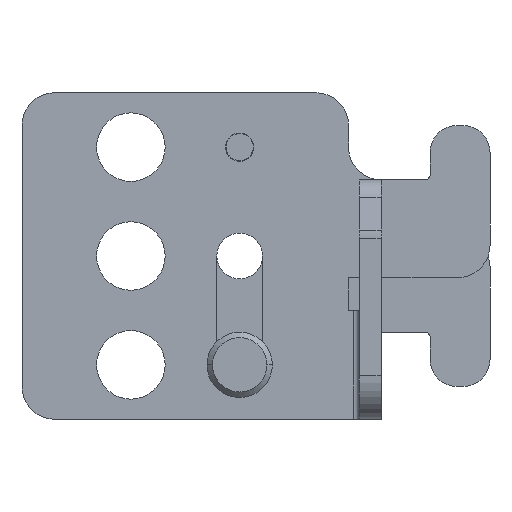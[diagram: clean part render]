
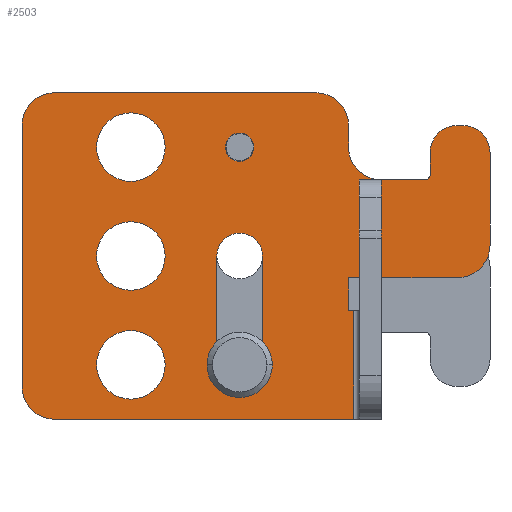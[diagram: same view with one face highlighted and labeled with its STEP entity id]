
A CAD part, left-side view. The second image highlights one B-rep face of the part: STEP entity #2503.
In plain terms, the highlighted planar face has unit normal (-1, 0, 0) as drawn and (1, 0, 0) by its records, which use the part's own axes.
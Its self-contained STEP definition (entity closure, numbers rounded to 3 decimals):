
#1666=CARTESIAN_POINT('',(2.,20.,0.));
#1667=DIRECTION('',(-1.,0.,0.));
#1668=DIRECTION('',(0.,0.,-1.));
#1669=AXIS2_PLACEMENT_3D('',#1666,#1667,#1668);
#1671=CARTESIAN_POINT('',(2.,20.,0.));
#1672=DIRECTION('',(-1.,0.,0.));
#1673=DIRECTION('',(0.,0.,1.));
#1674=AXIS2_PLACEMENT_3D('',#1671,#1672,#1673);
#1676=CARTESIAN_POINT('',(2.,20.,10.));
#1677=DIRECTION('',(-1.,0.,0.));
#1678=DIRECTION('',(0.,0.,-1.));
#1679=AXIS2_PLACEMENT_3D('',#1676,#1677,#1678);
#1681=CARTESIAN_POINT('',(2.,20.,10.));
#1682=DIRECTION('',(-1.,0.,0.));
#1683=DIRECTION('',(0.,0.,1.));
#1684=AXIS2_PLACEMENT_3D('',#1681,#1682,#1683);
#1686=CARTESIAN_POINT('',(2.,20.,-10.));
#1687=DIRECTION('',(-1.,0.,0.));
#1688=DIRECTION('',(0.,0.,-1.));
#1689=AXIS2_PLACEMENT_3D('',#1686,#1687,#1688);
#1691=CARTESIAN_POINT('',(2.,20.,-10.));
#1692=DIRECTION('',(-1.,0.,0.));
#1693=DIRECTION('',(0.,0.,1.));
#1694=AXIS2_PLACEMENT_3D('',#1691,#1692,#1693);
#1696=DIRECTION('',(0.,0.,-1.));
#1697=VECTOR('',#1696,10.);
#1698=CARTESIAN_POINT('',(2.,12.1,10.));
#1699=LINE('',#1698,#1697);
#1700=CARTESIAN_POINT('',(2.,10.,10.));
#1701=DIRECTION('',(-1.,0.,0.));
#1702=DIRECTION('',(0.,-1.,0.));
#1703=AXIS2_PLACEMENT_3D('',#1700,#1701,#1702);
#1705=DIRECTION('',(0.,0.,1.));
#1706=VECTOR('',#1705,10.);
#1707=CARTESIAN_POINT('',(2.,7.9,0.));
#1708=LINE('',#1707,#1706);
#1709=CARTESIAN_POINT('',(2.,10.,0.));
#1710=DIRECTION('',(-1.,0.,0.));
#1711=DIRECTION('',(0.,1.,0.));
#1712=AXIS2_PLACEMENT_3D('',#1709,#1710,#1711);
#1714=CARTESIAN_POINT('',(2.,10.,-10.));
#1715=DIRECTION('',(-1.,0.,0.));
#1716=DIRECTION('',(0.,0.,-1.));
#1717=AXIS2_PLACEMENT_3D('',#1714,#1715,#1716);
#1719=CARTESIAN_POINT('',(2.,10.,-10.));
#1720=DIRECTION('',(-1.,0.,0.));
#1721=DIRECTION('',(0.,0.,1.));
#1722=AXIS2_PLACEMENT_3D('',#1719,#1720,#1721);
#1724=CARTESIAN_POINT('',(2.,-10.,-9.5));
#1725=DIRECTION('',(1.,0.,0.));
#1726=DIRECTION('',(0.,0.,-1.));
#1727=AXIS2_PLACEMENT_3D('',#1724,#1725,#1726);
#1729=DIRECTION('',(0.,1.,0.));
#1730=VECTOR('',#1729,0.5);
#1731=CARTESIAN_POINT('',(2.,-10.5,-12.));
#1732=LINE('',#1731,#1730);
#1733=CARTESIAN_POINT('',(2.,-10.5,-9.5));
#1734=DIRECTION('',(1.,0.,0.));
#1735=DIRECTION('',(0.,-1.,0.));
#1736=AXIS2_PLACEMENT_3D('',#1733,#1734,#1735);
#1738=DIRECTION('',(0.,0.,-1.));
#1739=VECTOR('',#1738,8.5);
#1740=CARTESIAN_POINT('',(2.,-13.,-1.));
#1741=LINE('',#1740,#1739);
#1742=CARTESIAN_POINT('',(2.,-10.,-1.));
#1743=DIRECTION('',(1.,0.,0.));
#1744=DIRECTION('',(0.,0.,1.));
#1745=AXIS2_PLACEMENT_3D('',#1742,#1743,#1744);
#1747=DIRECTION('',(0.,-1.,0.));
#1748=VECTOR('',#1747,10.);
#1749=CARTESIAN_POINT('',(2.,0.,2.));
#1750=LINE('',#1749,#1748);
#1751=DIRECTION('',(0.,0.,-1.));
#1752=VECTOR('',#1751,3.);
#1753=CARTESIAN_POINT('',(2.,0.,5.));
#1754=LINE('',#1753,#1752);
#1755=DIRECTION('',(0.,0.,1.));
#1756=VECTOR('',#1755,10.);
#1757=CARTESIAN_POINT('',(2.,-0.5,5.));
#1758=LINE('',#1757,#1756);
#1759=DIRECTION('',(0.,1.,0.));
#1760=VECTOR('',#1759,27.5);
#1761=CARTESIAN_POINT('',(2.,-0.5,15.));
#1762=LINE('',#1761,#1760);
#1763=CARTESIAN_POINT('',(2.,27.,12.));
#1764=DIRECTION('',(1.,0.,0.));
#1765=DIRECTION('',(0.,1.,0.));
#1766=AXIS2_PLACEMENT_3D('',#1763,#1764,#1765);
#1768=DIRECTION('',(0.,0.,1.));
#1769=VECTOR('',#1768,24.);
#1770=CARTESIAN_POINT('',(2.,30.,-12.));
#1771=LINE('',#1770,#1769);
#1772=CARTESIAN_POINT('',(2.,27.,-12.));
#1773=DIRECTION('',(1.,0.,0.));
#1774=DIRECTION('',(0.,0.,-1.));
#1775=AXIS2_PLACEMENT_3D('',#1772,#1773,#1774);
#1777=DIRECTION('',(0.,1.,0.));
#1778=VECTOR('',#1777,24.);
#1779=CARTESIAN_POINT('',(2.,3.,-15.));
#1780=LINE('',#1779,#1778);
#1781=CARTESIAN_POINT('',(2.,3.,-12.));
#1782=DIRECTION('',(1.,0.,0.));
#1783=DIRECTION('',(0.,-1.,0.));
#1784=AXIS2_PLACEMENT_3D('',#1781,#1782,#1783);
#1786=DIRECTION('',(0.,0.,-1.));
#1787=VECTOR('',#1786,2.);
#1788=CARTESIAN_POINT('',(2.,0.,-10.));
#1789=LINE('',#1788,#1787);
#1790=DIRECTION('',(0.,1.,0.));
#1791=VECTOR('',#1790,4.);
#1792=CARTESIAN_POINT('',(2.,-7.,-7.));
#1793=LINE('',#1792,#1791);
#1794=DIRECTION('',(0.,0.,1.));
#1795=VECTOR('',#1794,2.);
#1796=CARTESIAN_POINT('',(2.,-7.5,-9.5));
#1797=LINE('',#1796,#1795);
#1851=CARTESIAN_POINT('',(2.,-7.,-7.5));
#1852=DIRECTION('',(-1.,0.,0.));
#1853=DIRECTION('',(0.,-1.,0.));
#1854=AXIS2_PLACEMENT_3D('',#1851,#1852,#1853);
#1869=CARTESIAN_POINT('',(2.,-3.,-10.));
#1870=DIRECTION('',(-1.,0.,0.));
#1871=DIRECTION('',(0.,0.,1.));
#1872=AXIS2_PLACEMENT_3D('',#1869,#1870,#1871);
#1936=DIRECTION('',(0.,1.,0.));
#1937=VECTOR('',#1936,0.5);
#1938=CARTESIAN_POINT('',(2.,-0.5,5.));
#1939=LINE('',#1938,#1937);
#2142=CARTESIAN_POINT('',(2.,20.,-3.15));
#2143=CARTESIAN_POINT('',(2.,20.,3.15));
#2144=VERTEX_POINT('',#2142);
#2145=VERTEX_POINT('',#2143);
#2146=CARTESIAN_POINT('',(2.,20.,6.85));
#2147=CARTESIAN_POINT('',(2.,20.,13.15));
#2148=VERTEX_POINT('',#2146);
#2149=VERTEX_POINT('',#2147);
#2150=CARTESIAN_POINT('',(2.,20.,-13.15));
#2151=CARTESIAN_POINT('',(2.,20.,-6.85));
#2152=VERTEX_POINT('',#2150);
#2153=VERTEX_POINT('',#2151);
#2155=CARTESIAN_POINT('',(2.,0.,2.));
#2157=VERTEX_POINT('',#2155);
#2166=CARTESIAN_POINT('',(2.,12.1,10.));
#2167=CARTESIAN_POINT('',(2.,12.1,0.));
#2168=VERTEX_POINT('',#2166);
#2169=VERTEX_POINT('',#2167);
#2170=CARTESIAN_POINT('',(2.,7.9,0.));
#2171=VERTEX_POINT('',#2170);
#2172=CARTESIAN_POINT('',(2.,7.9,10.));
#2173=VERTEX_POINT('',#2172);
#2178=CARTESIAN_POINT('',(2.,10.,-11.3));
#2179=CARTESIAN_POINT('',(2.,10.,-8.7));
#2180=VERTEX_POINT('',#2178);
#2181=VERTEX_POINT('',#2179);
#2184=CARTESIAN_POINT('',(2.,-10.,2.));
#2185=VERTEX_POINT('',#2184);
#2190=CARTESIAN_POINT('',(2.,30.,12.));
#2191=VERTEX_POINT('',#2190);
#2192=CARTESIAN_POINT('',(2.,27.,15.));
#2193=VERTEX_POINT('',#2192);
#2198=CARTESIAN_POINT('',(2.,27.,-15.));
#2199=VERTEX_POINT('',#2198);
#2200=CARTESIAN_POINT('',(2.,30.,-12.));
#2201=VERTEX_POINT('',#2200);
#2204=CARTESIAN_POINT('',(2.,-13.,-1.));
#2205=VERTEX_POINT('',#2204);
#2207=CARTESIAN_POINT('',(2.,0.,-10.));
#2209=VERTEX_POINT('',#2207);
#2211=CARTESIAN_POINT('',(2.,-3.,-7.));
#2213=VERTEX_POINT('',#2211);
#2216=CARTESIAN_POINT('',(2.,-7.,-7.));
#2217=VERTEX_POINT('',#2216);
#2220=CARTESIAN_POINT('',(2.,-7.5,-7.5));
#2221=VERTEX_POINT('',#2220);
#2226=CARTESIAN_POINT('',(2.,0.,-12.));
#2227=VERTEX_POINT('',#2226);
#2228=CARTESIAN_POINT('',(2.,3.,-15.));
#2229=VERTEX_POINT('',#2228);
#2231=CARTESIAN_POINT('',(2.,0.,5.));
#2233=VERTEX_POINT('',#2231);
#2266=CARTESIAN_POINT('',(2.,-0.5,5.));
#2267=CARTESIAN_POINT('',(2.,-0.5,15.));
#2268=VERTEX_POINT('',#2266);
#2269=VERTEX_POINT('',#2267);
#2298=CARTESIAN_POINT('',(2.,-10.,-12.));
#2299=CARTESIAN_POINT('',(2.,-7.5,-9.5));
#2300=VERTEX_POINT('',#2298);
#2301=VERTEX_POINT('',#2299);
#2310=CARTESIAN_POINT('',(2.,-13.,-9.5));
#2311=VERTEX_POINT('',#2310);
#2312=CARTESIAN_POINT('',(2.,-10.5,-12.));
#2313=VERTEX_POINT('',#2312);
#2424=CARTESIAN_POINT('',(2.,0.,0.));
#2425=DIRECTION('',(1.,0.,0.));
#2426=DIRECTION('',(0.,-1.,0.));
#2427=AXIS2_PLACEMENT_3D('',#2424,#2425,#2426);
#2428=PLANE('',#2427);
#2430=ORIENTED_EDGE('',*,*,#2429,.F.);
#2432=ORIENTED_EDGE('',*,*,#2431,.F.);
#2434=ORIENTED_EDGE('',*,*,#2433,.F.);
#2436=ORIENTED_EDGE('',*,*,#2435,.F.);
#2438=ORIENTED_EDGE('',*,*,#2437,.F.);
#2440=ORIENTED_EDGE('',*,*,#2439,.F.);
#2442=ORIENTED_EDGE('',*,*,#2441,.F.);
#2444=ORIENTED_EDGE('',*,*,#2443,.F.);
#2446=ORIENTED_EDGE('',*,*,#2445,.T.);
#2448=ORIENTED_EDGE('',*,*,#2447,.T.);
#2450=ORIENTED_EDGE('',*,*,#2449,.F.);
#2452=ORIENTED_EDGE('',*,*,#2451,.F.);
#2454=ORIENTED_EDGE('',*,*,#2453,.F.);
#2456=ORIENTED_EDGE('',*,*,#2455,.F.);
#2458=ORIENTED_EDGE('',*,*,#2457,.F.);
#2460=ORIENTED_EDGE('',*,*,#2459,.F.);
#2462=ORIENTED_EDGE('',*,*,#2461,.F.);
#2464=ORIENTED_EDGE('',*,*,#2463,.F.);
#2466=ORIENTED_EDGE('',*,*,#2465,.F.);
#2468=ORIENTED_EDGE('',*,*,#2467,.F.);
#2469=EDGE_LOOP('',(#2430,#2432,#2434,#2436,#2438,#2440,#2442,#2444,#2446,#2448,
#2450,#2452,#2454,#2456,#2458,#2460,#2462,#2464,#2466,#2468));
#2470=FACE_OUTER_BOUND('',#2469,.F.);
#2471=ORIENTED_EDGE('',*,*,#2404,.F.);
#2472=ORIENTED_EDGE('',*,*,#2418,.F.);
#2473=EDGE_LOOP('',(#2471,#2472));
#2474=FACE_BOUND('',#2473,.F.);
#2476=ORIENTED_EDGE('',*,*,#2475,.F.);
#2478=ORIENTED_EDGE('',*,*,#2477,.F.);
#2479=EDGE_LOOP('',(#2476,#2478));
#2480=FACE_BOUND('',#2479,.F.);
#2482=ORIENTED_EDGE('',*,*,#2481,.F.);
#2484=ORIENTED_EDGE('',*,*,#2483,.F.);
#2485=EDGE_LOOP('',(#2482,#2484));
#2486=FACE_BOUND('',#2485,.F.);
#2488=ORIENTED_EDGE('',*,*,#2487,.F.);
#2490=ORIENTED_EDGE('',*,*,#2489,.F.);
#2492=ORIENTED_EDGE('',*,*,#2491,.F.);
#2494=ORIENTED_EDGE('',*,*,#2493,.F.);
#2495=EDGE_LOOP('',(#2488,#2490,#2492,#2494));
#2496=FACE_BOUND('',#2495,.F.);
#2498=ORIENTED_EDGE('',*,*,#2497,.F.);
#2500=ORIENTED_EDGE('',*,*,#2499,.F.);
#2501=EDGE_LOOP('',(#2498,#2500));
#2502=FACE_BOUND('',#2501,.F.);
#2503=ADVANCED_FACE('',(#2470,#2474,#2480,#2486,#2496,#2502),#2428,.T.);
#1670=CIRCLE('',#1669,3.15);
#1675=CIRCLE('',#1674,3.15);
#1680=CIRCLE('',#1679,3.15);
#1685=CIRCLE('',#1684,3.15);
#1690=CIRCLE('',#1689,3.15);
#1695=CIRCLE('',#1694,3.15);
#1704=CIRCLE('',#1703,2.1);
#1713=CIRCLE('',#1712,2.1);
#1718=CIRCLE('',#1717,1.3);
#1723=CIRCLE('',#1722,1.3);
#1728=CIRCLE('',#1727,2.5);
#1737=CIRCLE('',#1736,2.5);
#1746=CIRCLE('',#1745,3.);
#1767=CIRCLE('',#1766,3.);
#1776=CIRCLE('',#1775,3.);
#1785=CIRCLE('',#1784,3.);
#1855=CIRCLE('',#1854,0.5);
#1873=CIRCLE('',#1872,3.);
#2404=EDGE_CURVE('',#2144,#2145,#1670,.T.);
#2418=EDGE_CURVE('',#2145,#2144,#1675,.T.);
#2429=EDGE_CURVE('',#2300,#2301,#1728,.T.);
#2431=EDGE_CURVE('',#2313,#2300,#1732,.T.);
#2433=EDGE_CURVE('',#2311,#2313,#1737,.T.);
#2435=EDGE_CURVE('',#2205,#2311,#1741,.T.);
#2437=EDGE_CURVE('',#2185,#2205,#1746,.T.);
#2439=EDGE_CURVE('',#2157,#2185,#1750,.T.);
#2441=EDGE_CURVE('',#2233,#2157,#1754,.T.);
#2443=EDGE_CURVE('',#2268,#2233,#1939,.T.);
#2445=EDGE_CURVE('',#2268,#2269,#1758,.T.);
#2447=EDGE_CURVE('',#2269,#2193,#1762,.T.);
#2449=EDGE_CURVE('',#2191,#2193,#1767,.T.);
#2451=EDGE_CURVE('',#2201,#2191,#1771,.T.);
#2453=EDGE_CURVE('',#2199,#2201,#1776,.T.);
#2455=EDGE_CURVE('',#2229,#2199,#1780,.T.);
#2457=EDGE_CURVE('',#2227,#2229,#1785,.T.);
#2459=EDGE_CURVE('',#2209,#2227,#1789,.T.);
#2461=EDGE_CURVE('',#2213,#2209,#1873,.T.);
#2463=EDGE_CURVE('',#2217,#2213,#1793,.T.);
#2465=EDGE_CURVE('',#2221,#2217,#1855,.T.);
#2467=EDGE_CURVE('',#2301,#2221,#1797,.T.);
#2475=EDGE_CURVE('',#2148,#2149,#1680,.T.);
#2477=EDGE_CURVE('',#2149,#2148,#1685,.T.);
#2481=EDGE_CURVE('',#2152,#2153,#1690,.T.);
#2483=EDGE_CURVE('',#2153,#2152,#1695,.T.);
#2487=EDGE_CURVE('',#2168,#2169,#1699,.T.);
#2489=EDGE_CURVE('',#2173,#2168,#1704,.T.);
#2491=EDGE_CURVE('',#2171,#2173,#1708,.T.);
#2493=EDGE_CURVE('',#2169,#2171,#1713,.T.);
#2497=EDGE_CURVE('',#2180,#2181,#1718,.T.);
#2499=EDGE_CURVE('',#2181,#2180,#1723,.T.);
